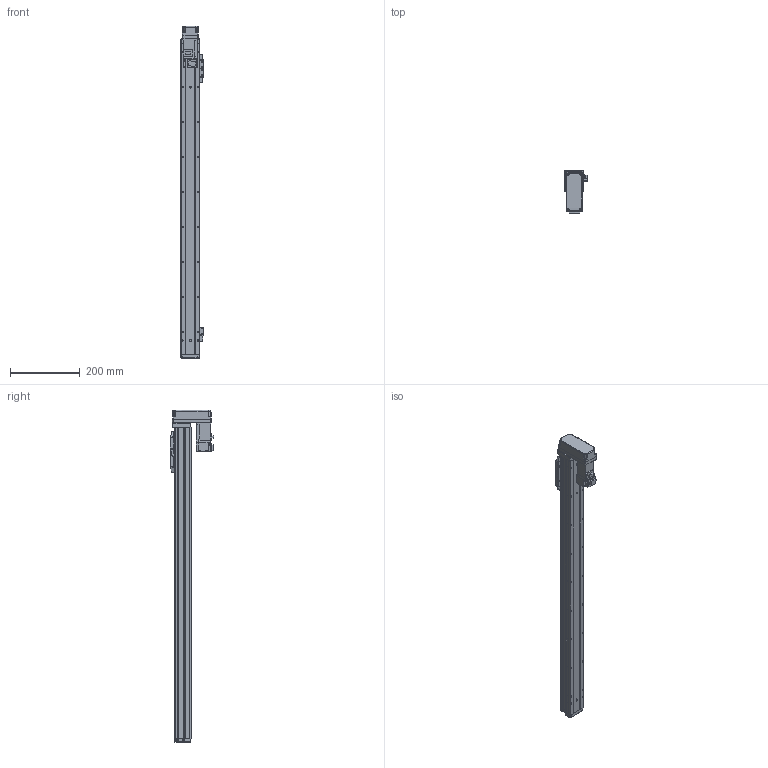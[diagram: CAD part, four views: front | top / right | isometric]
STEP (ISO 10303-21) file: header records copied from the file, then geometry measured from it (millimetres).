
FILE_DESCRIPTION (( 'STEP AP214' ), '1' );
FILE_NAME ('N_GRH5-750-BM-M10.step', '2025-03-14T10:51:14', ( '' ), ( '' ), 'SwSTEP 2.0', 'SolidWorks 2016', '' );
FILE_SCHEMA (( 'AUTOMOTIVE_DESIGN' ));
Length unit declared in the file: millimetre
Products named in the file (5): N_GRH5-750-BM-M10; HF-KP13_100W_Motor^N_GRH5-750-BM-M10; N_GRH5-BL-008^N_GRH5-750-BM-M10; N_GRH5-GY-011^N_GRH5-750-BM-M10; N_GRH5-GY-004^N_GRH5-750-BM-M10
Assembly tree (4 placements, depth 2):
  N_GRH5-750-BM-M10
    N_GRH5-GY-011^N_GRH5-750-BM-M10
    N_GRH5-GY-004^N_GRH5-750-BM-M10
    HF-KP13_100W_Motor^N_GRH5-750-BM-M10
    N_GRH5-BL-008^N_GRH5-750-BM-M10
Bounding box: 64.05 x 123.7 x 950 mm (x, y, z)
Volume: 1714586.7 mm3; surface area: 441498.8 mm2
Topology: 4 solids, 5 shells, 984 faces, 2504 edges, 1589 vertices
Faces by surface type: plane 557, cylinder 352, cone 50, bspline 15, sphere 10
Entity records: 37347 total; most frequent: CARTESIAN_POINT 5843, DIRECTION 5105, ORIENTED_EDGE 4944, EDGE_CURVE 2472, AXIS2_PLACEMENT_3D 1715, LINE 1675, VECTOR 1675, VERTEX_POINT 1587
